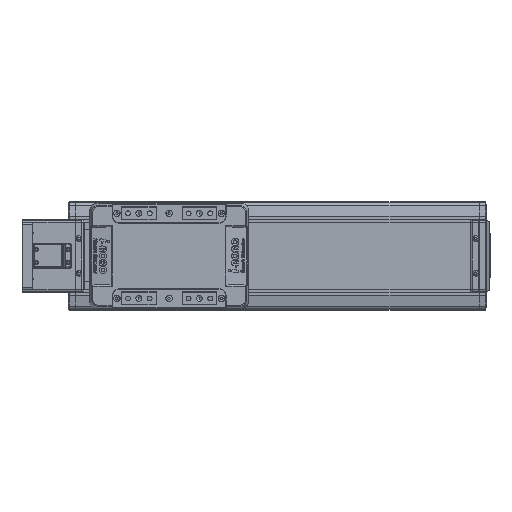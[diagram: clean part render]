
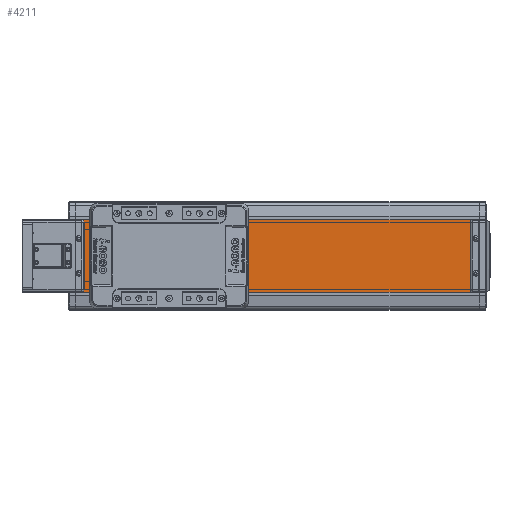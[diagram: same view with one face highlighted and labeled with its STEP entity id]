
A CAD part, top view. The second image highlights one B-rep face of the part: STEP entity #4211.
In plain terms, the highlighted planar face has unit normal (0, 0, 1).
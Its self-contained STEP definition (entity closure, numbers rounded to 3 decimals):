
#4211=ADVANCED_FACE('',(#10568),#10569,.F.);
#10568=FACE_OUTER_BOUND('',#20180,.T.);
#10569=PLANE('',#20181);
#20180=EDGE_LOOP('',(#32579,#32580,#32581,#32582));
#20181=AXIS2_PLACEMENT_3D('',#32583,#32584,#32585);
#32579=ORIENTED_EDGE('',*,*,#55642,.F.);
#32580=ORIENTED_EDGE('',*,*,#56936,.F.);
#32581=ORIENTED_EDGE('',*,*,#56937,.F.);
#32582=ORIENTED_EDGE('',*,*,#56938,.T.);
#32583=CARTESIAN_POINT('',(0.,0.,26.));
#32584=DIRECTION('',(0.,0.,-1.0));
#32585=DIRECTION('',(0.,1.0,0.));
#55642=EDGE_CURVE('',#66308,#66310,#66311,.T.);
#56936=EDGE_CURVE('',#68589,#66308,#68590,.T.);
#56937=EDGE_CURVE('',#68591,#68589,#68592,.T.);
#56938=EDGE_CURVE('',#68591,#66310,#68593,.T.);
#66308=VERTEX_POINT('',#81522);
#66310=VERTEX_POINT('',#81525);
#66311=LINE('',#81526,#81527);
#68589=VERTEX_POINT('',#84598);
#68590=LINE('',#84599,#84600);
#68591=VERTEX_POINT('',#84601);
#68592=LINE('',#84602,#84603);
#68593=LINE('',#84604,#84605);
#81522=CARTESIAN_POINT('',(560.0,50.,26.));
#81525=CARTESIAN_POINT('',(560.0,-50.,26.));
#81526=CARTESIAN_POINT('',(560.0,-50.,26.));
#81527=VECTOR('',#101359,10.0);
#84598=CARTESIAN_POINT('',(0.,50.,26.));
#84599=CARTESIAN_POINT('',(0.,50.,26.));
#84600=VECTOR('',#103418,10.0);
#84601=CARTESIAN_POINT('',(0.,-50.,26.));
#84602=CARTESIAN_POINT('',(0.,-50.,26.));
#84603=VECTOR('',#103419,10.0);
#84604=CARTESIAN_POINT('',(0.,-50.,26.));
#84605=VECTOR('',#103420,10.0);
#101359=DIRECTION('',(0.,-1.0,0.));
#103418=DIRECTION('',(1.0,0.,0.));
#103419=DIRECTION('',(0.,1.0,0.));
#103420=DIRECTION('',(1.0,0.,0.));
